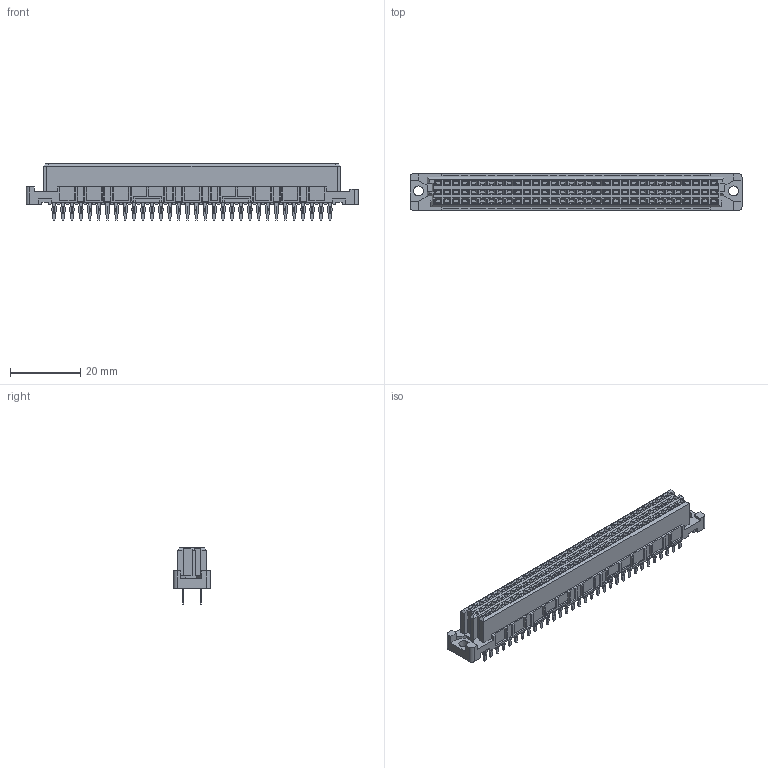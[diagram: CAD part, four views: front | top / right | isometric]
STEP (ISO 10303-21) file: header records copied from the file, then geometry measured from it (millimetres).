
FILE_DESCRIPTION(/* description */ (''),/* implementation_level */ '2;1');
FILE_NAME(/* name */ '100981894ugm000_a.stp',/* time_stamp */ '2021-11-04T16:32:09+01:00',/* author */ (''),/* organization */ (''),/* preprocessor_version */ 'ST-DEVELOPER v16.7',/* originating_system */ 'SIEMENS PLM Software NX 1911',/* authorisation */ '');
FILE_SCHEMA (('AUTOMOTIVE_DESIGN { 1 0 10303 214 3 1 1 1 }'));
Products named in the file (1): 100981894ugm000_a
Bounding box: 94.8 x 10.5 x 16.05 mm (x, y, z)
Volume: 8483.5 mm3; surface area: 6074.3 mm2
Topology: 1 solids, 1 shells, 7830 faces, 21455 edges, 13884 vertices
Faces by surface type: plane 5264, cylinder 2566
Full cylindrical faces by diameter (mm): 2.85 x2
Entity records: 302751 total; most frequent: CARTESIAN_POINT 52190, ORIENTED_EDGE 42904, DIRECTION 37638, EDGE_CURVE 21452, LINE 14912, VECTOR 14912, VERTEX_POINT 13882, AXIS2_PLACEMENT_3D 11363
